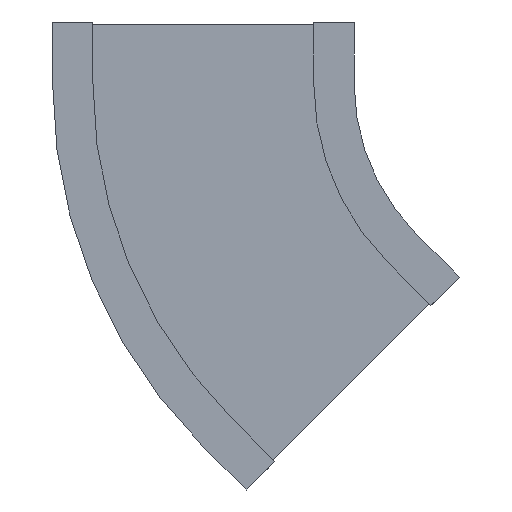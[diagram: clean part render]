
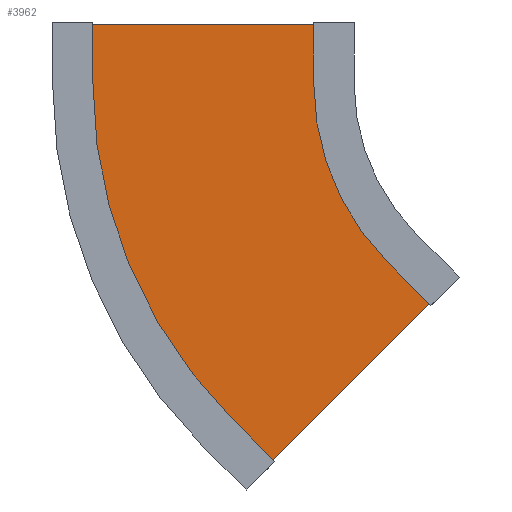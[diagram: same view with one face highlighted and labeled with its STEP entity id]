
A CAD part, front view. The second image highlights one B-rep face of the part: STEP entity #3962.
In plain terms, the highlighted planar face has unit normal (0, -1, 0).
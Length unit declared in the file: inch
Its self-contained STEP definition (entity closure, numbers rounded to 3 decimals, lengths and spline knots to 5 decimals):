
#3807=DIRECTION('',(0.,0.,1.));
#3808=VECTOR('',#3807,11.875);
#3809=CARTESIAN_POINT('',(-2.875,0.,-5.9375));
#3810=LINE('',#3809,#3808);
#3811=DIRECTION('',(1.,0.,0.));
#3812=VECTOR('',#3811,2.875);
#3813=CARTESIAN_POINT('',(-2.875,0.,5.9375));
#3814=LINE('',#3813,#3812);
#3815=CARTESIAN_POINT('',(0.,0.,18.11));
#3816=DIRECTION('',(0.,-1.,0.));
#3817=DIRECTION('',(0.,0.,-1.));
#3818=AXIS2_PLACEMENT_3D('',#3815,#3816,#3817);
#3820=DIRECTION('',(0.707,0.,0.707));
#3821=VECTOR('',#3820,2.875);
#3822=CARTESIAN_POINT('',(8.60726,0.,9.50274));
#3823=LINE('',#3822,#3821);
#3824=DIRECTION('',(0.707,0.,-0.707));
#3825=VECTOR('',#3824,11.875);
#3826=CARTESIAN_POINT('',(10.64019,0.,11.53567));
#3827=LINE('',#3826,#3825);
#3828=DIRECTION('',(-0.707,0.,-0.707));
#3829=VECTOR('',#3828,2.875);
#3830=CARTESIAN_POINT('',(19.03708,0.,3.13878));
#3831=LINE('',#3830,#3829);
#3832=CARTESIAN_POINT('',(0.,0.,18.11));
#3833=DIRECTION('',(0.,1.,0.));
#3834=DIRECTION('',(0.707,0.,-0.707));
#3835=AXIS2_PLACEMENT_3D('',#3832,#3833,#3834);
#3837=DIRECTION('',(-1.,0.,0.));
#3838=VECTOR('',#3837,2.875);
#3839=CARTESIAN_POINT('',(0.,0.,-5.9375));
#3840=LINE('',#3839,#3838);
#3907=CARTESIAN_POINT('',(-2.875,0.,-5.9375));
#3908=CARTESIAN_POINT('',(-2.875,0.,5.9375));
#3909=VERTEX_POINT('',#3907);
#3910=VERTEX_POINT('',#3908);
#3911=CARTESIAN_POINT('',(0.,0.,5.9375));
#3912=VERTEX_POINT('',#3911);
#3913=CARTESIAN_POINT('',(8.60726,0.,9.50274));
#3914=VERTEX_POINT('',#3913);
#3915=CARTESIAN_POINT('',(10.64019,0.,11.53567));
#3916=VERTEX_POINT('',#3915);
#3917=CARTESIAN_POINT('',(19.03708,0.,3.13878));
#3918=VERTEX_POINT('',#3917);
#3919=CARTESIAN_POINT('',(17.00415,0.,1.10585));
#3920=VERTEX_POINT('',#3919);
#3921=CARTESIAN_POINT('',(0.,0.,-5.9375));
#3922=VERTEX_POINT('',#3921);
#3939=CARTESIAN_POINT('',(0.,0.,0.));
#3940=DIRECTION('',(0.,1.,0.));
#3941=DIRECTION('',(1.,0.,0.));
#3942=AXIS2_PLACEMENT_3D('',#3939,#3940,#3941);
#3943=PLANE('',#3942);
#3945=ORIENTED_EDGE('',*,*,#3944,.T.);
#3947=ORIENTED_EDGE('',*,*,#3946,.T.);
#3949=ORIENTED_EDGE('',*,*,#3948,.T.);
#3951=ORIENTED_EDGE('',*,*,#3950,.T.);
#3953=ORIENTED_EDGE('',*,*,#3952,.T.);
#3955=ORIENTED_EDGE('',*,*,#3954,.T.);
#3957=ORIENTED_EDGE('',*,*,#3956,.T.);
#3959=ORIENTED_EDGE('',*,*,#3958,.T.);
#3960=EDGE_LOOP('',(#3945,#3947,#3949,#3951,#3953,#3955,#3957,#3959));
#3961=FACE_OUTER_BOUND('',#3960,.F.);
#3962=ADVANCED_FACE('',(#3961),#3943,.F.);
#3819=CIRCLE('',#3818,12.1725);
#3836=CIRCLE('',#3835,24.0475);
#3944=EDGE_CURVE('',#3909,#3910,#3810,.T.);
#3946=EDGE_CURVE('',#3910,#3912,#3814,.T.);
#3948=EDGE_CURVE('',#3912,#3914,#3819,.T.);
#3950=EDGE_CURVE('',#3914,#3916,#3823,.T.);
#3952=EDGE_CURVE('',#3916,#3918,#3827,.T.);
#3954=EDGE_CURVE('',#3918,#3920,#3831,.T.);
#3956=EDGE_CURVE('',#3920,#3922,#3836,.T.);
#3958=EDGE_CURVE('',#3922,#3909,#3840,.T.);
